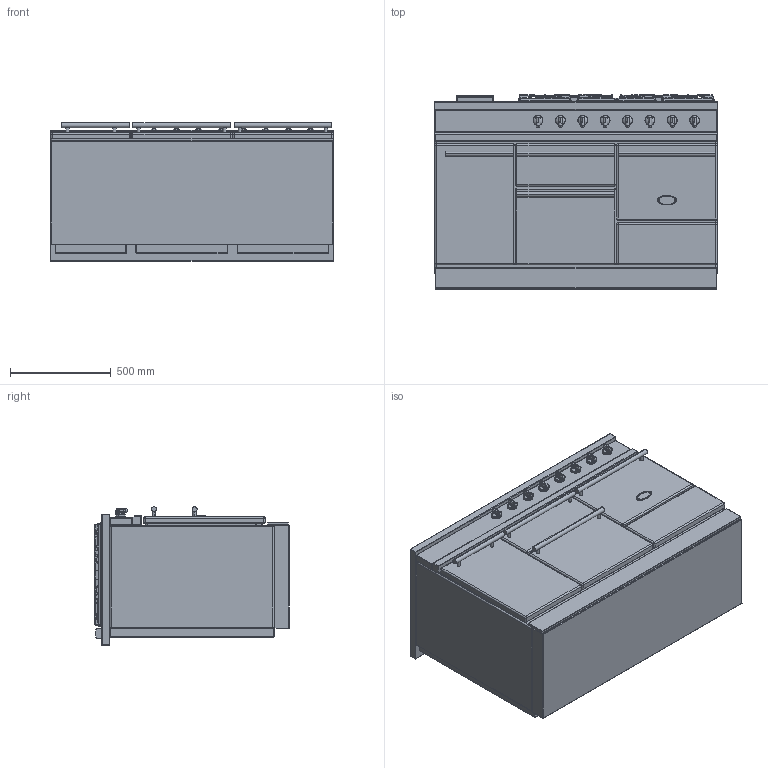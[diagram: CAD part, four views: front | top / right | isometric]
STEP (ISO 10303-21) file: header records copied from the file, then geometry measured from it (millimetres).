
FILE_DESCRIPTION((''),'2;1');
FILE_NAME('LMG1453G_ASM','2022-04-13T11:18:56',('stagiaire'),(''),'CREO PARAMETRIC BY PTC INC, 2021424','CREO PARAMETRIC BY PTC INC, 2021424','');
FILE_SCHEMA(('AP203_CONFIGURATION_CONTROLLED_3D_DESIGN_OF_MECHANICAL_PARTS_AND_ASSEMBLIES_MIM_LF { 1 0 10303 403 2 1 2 }'));
Products named in the file (21): BASE_EXPORT_CHAGNY_1400G_MODERN; 65049009; 65650001; 65064012; 19150009; 88064012_ASM; BASE_EXPORT_CHAGNY_1400G_MODERN_ASM; TABLE_1405G_CLASSIQUE; 3KW; 5KW; 1_5KW; 4KW; 6537025; 65149005; 90000488_ASM; 6537023; 90000565_ASM; CHEMINEE_2020_LG182_EXPORT_STEP; CHEMINEE_2020_LG371_EXPORT_STEP; TABLE_1405G_CLASSIQUE_ASM; LMG1453G_ASM
Assembly tree (38 placements, depth 4):
  LMG1453G_ASM
    BASE_EXPORT_CHAGNY_1400G_MODERN_ASM
      BASE_EXPORT_CHAGNY_1400G_MODERN
      65049009
      65650001
      88064012_ASM  x8
        65064012
        19150009
    TABLE_1405G_CLASSIQUE_ASM
      TABLE_1405G_CLASSIQUE
      3KW  x2
      5KW
      1_5KW
      4KW
      90000488_ASM  x2
        6537025
        65149005
      90000565_ASM  x2
        6537023
        65149005
      CHEMINEE_2020_LG182_EXPORT_STEP
      CHEMINEE_2020_LG371_EXPORT_STEP  x2
Bounding box: 1405 x 965 x 687.75 mm (x, y, z)
Volume: 752116813.4 mm3; surface area: 11533748.7 mm2
Topology: 52 solids, 52 shells, 6242 faces, 17073 edges, 10911 vertices
Faces by surface type: cylinder 2085, plane 1882, bspline 1365, sphere 354, cone 327, torus 187, extrusion 42
Entity records: 143571 total; most frequent: CARTESIAN_POINT 48707, ORIENTED_EDGE 15422, DIRECTION 14304, EDGE_CURVE 7711, AXIS2_PLACEMENT_3D 4852, VERTEX_POINT 4681, VECTOR 4542, LINE 4520
